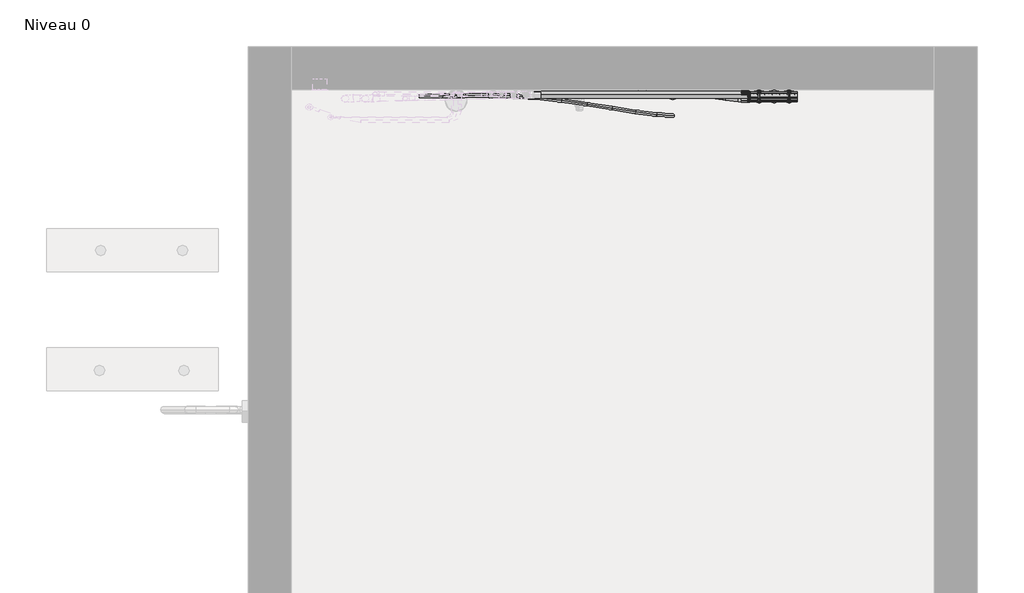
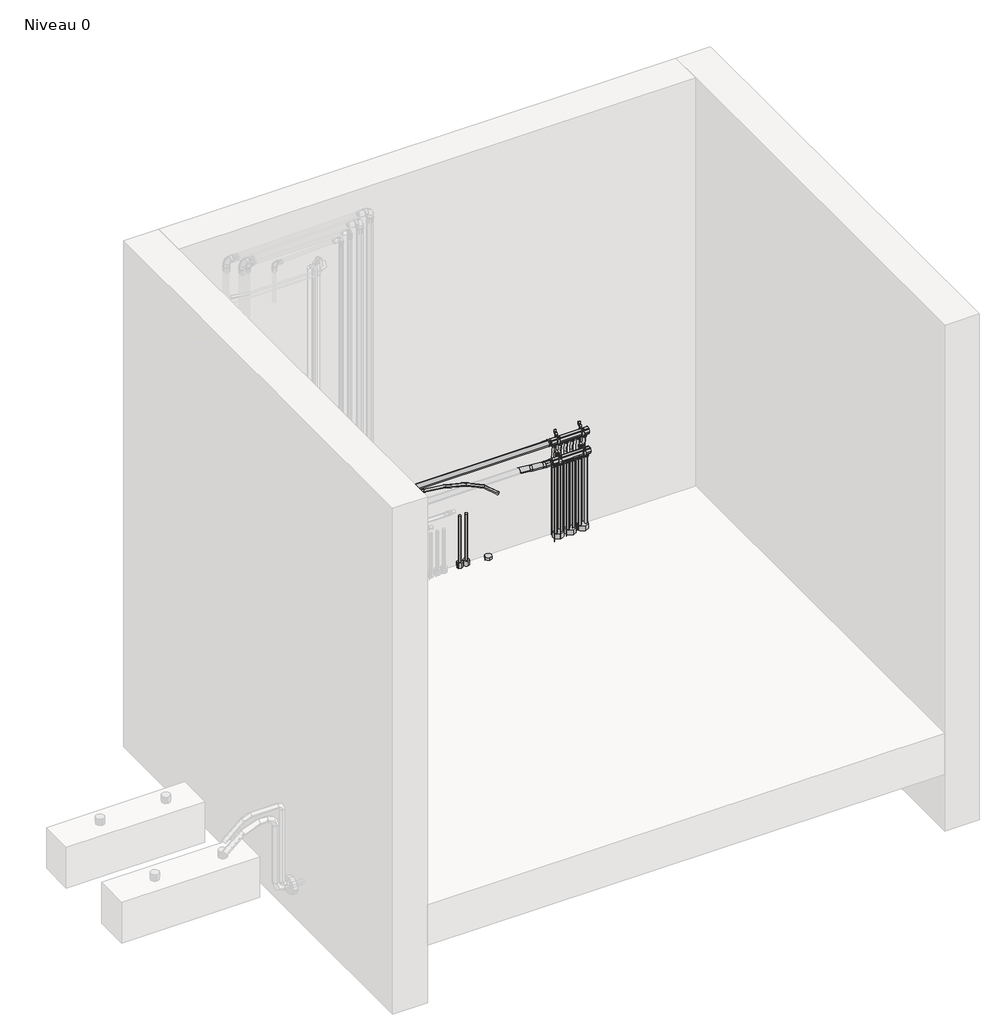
# One storey, part 4 of 4: 24 pipe segments, 4 pipe fittings, 1 proxy.
"""IFC4 building model written with IfcOpenShell, lengths in millimetres."""

from ifc_helpers import new_model, si_unit, point, frame, frame_2d, origin, place, context, project, spatial, circle_curve, ellipse_curve, trimmed, segment, composite_curve, outline, extrude, transform, mapped, element, save
from ifc_brep_helpers import plane_surface, cylinder_surface, advanced_brep
from components import proxy_4e90085c, proxy_aa8e1a6c, proxy_cb0937cd, proxy_d326d624, pipe_fitting_12f90ac3, pipe_fitting_e42a125b, standard_f86e1c61, standard_a543c9cd

model = new_model("IFC4")

# Units and contexts
model_context = context("Model", 3, world=origin())
ifc_project = project(units=[si_unit("LENGTHUNIT", "METRE", prefix="MILLI")], contexts=[model_context])

# Site, building, storey
site = spatial("IfcSite", under=ifc_project)
building = spatial("IfcBuilding", under=site)
storey = spatial("IfcBuildingStorey", under=building, Name="Niveau 0", Elevation=0.0)

# Proxy
placement = place(None, origin())
proxy_shape = proxy_4e90085c(model_context)
proxy_2_shape = proxy_aa8e1a6c(model_context)
proxy_3_shape = proxy_cb0937cd(model_context)
proxy_4_shape = proxy_d326d624(model_context)
element("IfcBuildingElementProxy", 1, Name="R580F : R580 3/4\" x 1/2\"", ObjectType="R580F : R580 3/4\" x 1/2\"", at=placement, inside=storey, context=model_context, shape_type="MappedRepresentation", body=[
    mapped(proxy_shape, transform((-18451.5411371, 2868.3187083, 417.5587972), x_axis=(1.0, 0.0, 0.0), y_axis=(0.0, 1.0, 0.0), z_axis=(0.0, 0.0, 1.0))),
    mapped(proxy_2_shape, transform((-18451.5411371, 2868.3187083, 417.5587972), x_axis=(1.0, 0.0, 0.0), y_axis=(0.0, 1.0, 0.0), z_axis=(0.0, 0.0, 1.0))),
    mapped(proxy_3_shape, transform((-18451.5411371, 2868.3187083, 417.5587972), x_axis=(1.0, 0.0, 0.0), y_axis=(0.0, 1.0, 0.0), z_axis=(0.0, 0.0, 1.0))),
    mapped(proxy_4_shape, transform((-18451.5411371, 2868.3187083, 417.5587972), x_axis=(1.0, 0.0, 0.0), y_axis=(0.0, 1.0, 0.0), z_axis=(0.0, 0.0, 1.0))),
])

# Pipe fittings
pipe_fitting_shape = pipe_fitting_12f90ac3(model_context)
element("IfcPipeFitting", 2, ObjectType="COMAP - SKINPRESS ppsu - Manchon_Réduit_9240W : Manchon_Réduit_9240W", at=placement, inside=storey, context=model_context, shape_type="MappedRepresentation", body=[
    mapped(pipe_fitting_shape, transform((-18482.5411371, 2827.7041611, 470.5625241), x_axis=(-1.0, 0.0, 0.0), y_axis=(0.0, -1.0, 0.0), z_axis=(0.0, 0.0, 1.0))),
])
pipe_fitting_2_shape = pipe_fitting_e42a125b(model_context)
element("IfcPipeFitting", 3, ObjectType="COMAP - SKINPRESS ppsu - Manchon_Réduit_9240W : Manchon_Réduit_9240W", at=placement, inside=storey, context=model_context, shape_type="MappedRepresentation", body=[
    mapped(pipe_fitting_2_shape, transform((-18482.5411371, 2845.768066, 580.9440266), x_axis=(1.0, 0.0, 0.0), y_axis=(0.0, 0.99995401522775, 0.009589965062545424), z_axis=(0.0, -0.009589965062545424, 0.99995401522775))),
])
standard_shape = standard_f86e1c61(model_context)
element("IfcPipeFitting", 4, ObjectType="COMAP - MULTISKIN - Coude Cintre : Standard", at=placement, inside=storey, context=model_context, shape_type="MappedRepresentation", body=[
    mapped(standard_shape, transform((-18627.1850009, 2844.5669991, 470.5625241), x_axis=(-0.970418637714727, 0.24142839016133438, 0.0), y_axis=(-0.24142839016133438, -0.970418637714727, 0.0), z_axis=(0.0, 0.0, 1.0))),
])
standard_2_shape = standard_a543c9cd(model_context)
element("IfcPipeFitting", 5, ObjectType="COMAP - MULTISKIN - Coude Cintre : Standard", at=placement, inside=storey, context=model_context, shape_type="MappedRepresentation", body=[
    mapped(standard_2_shape, transform((-18559.4050176, 2827.7041611, 470.5625241), x_axis=(0.970418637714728, -0.24142839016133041, 0.0), y_axis=(0.24142839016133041, 0.970418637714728, 0.0), z_axis=(0.0, 0.0, 1.0))),
])

# Pipe segments
element("IfcPipeSegment", 6, ObjectType="COMAP MULTISKIN - SKINPRESS PPSU", at=placement, inside=storey, context=model_context, shape_type="SweptSolid", body=[
    extrude(outline(composite_curve([segment(trimmed(circle_curve(frame_2d((-18996.5411371, 2848.1013547)), 7.0), [point((-18989.5411371, 2848.1013547))], [point((-18996.5411371, 2841.1013547))], False, "CARTESIAN"), True, "CONTINUOUS"), segment(trimmed(circle_curve(frame_2d((-18996.5411371, 2848.1013547)), 7.0), [point((-18996.5411371, 2841.1013547))], [point((-19003.5411371, 2848.1013547))], False, "CARTESIAN"), True, "CONTINUOUS"), segment(trimmed(circle_curve(frame_2d((-18996.5411371, 2848.1013547)), 7.0), [point((-19003.5411371, 2848.1013547))], [point((-18996.5411371, 2855.1013547))], False, "CARTESIAN"), True, "CONTINUOUS"), segment(trimmed(circle_curve(frame_2d((-18996.5411371, 2848.1013547)), 7.0), [point((-18996.5411371, 2855.1013547))], [point((-18989.5411371, 2848.1013547))], False, "CARTESIAN"), True, "CONTINUOUS")], self_intersect=False)), frame((0.0, 0.0, -338.1002), z_axis=(0.0, 0.0, 1.0), x_axis=(1.0, 0.0, 0.0)), (0.0, 0.0, 1.0), 651.6002),
])
element("IfcPipeSegment", 7, ObjectType="COMAP MULTISKIN - SKINPRESS PPSU", at=placement, inside=storey, context=model_context, shape_type="SweptSolid", body=[
    extrude(outline(composite_curve([segment(trimmed(circle_curve(frame_2d((-18958.5411371, 2848.1013547)), 7.0), [point((-18951.5411371, 2848.1013547))], [point((-18958.5411371, 2841.1013547))], False, "CARTESIAN"), True, "CONTINUOUS"), segment(trimmed(circle_curve(frame_2d((-18958.5411371, 2848.1013547)), 7.0), [point((-18958.5411371, 2841.1013547))], [point((-18965.5411371, 2848.1013547))], False, "CARTESIAN"), True, "CONTINUOUS"), segment(trimmed(circle_curve(frame_2d((-18958.5411371, 2848.1013547)), 7.0), [point((-18965.5411371, 2848.1013547))], [point((-18958.5411371, 2855.1013547))], False, "CARTESIAN"), True, "CONTINUOUS"), segment(trimmed(circle_curve(frame_2d((-18958.5411371, 2848.1013547)), 7.0), [point((-18958.5411371, 2855.1013547))], [point((-18951.5411371, 2848.1013547))], False, "CARTESIAN"), True, "CONTINUOUS")], self_intersect=False)), frame((0.0, 0.0, -336.5), z_axis=(0.0, 0.0, 1.0), x_axis=(1.0, 0.0, 0.0)), (0.0, 0.0, 1.0), 650.0),
])
element("IfcPipeSegment", 8, ObjectType="COMAP MULTISKIN - SKINPRESS PPSU", at=placement, inside=storey, context=model_context, shape_type="SweptSolid", body=[
    extrude(outline(composite_curve([segment(trimmed(circle_curve(frame_2d((2844.3084587, 580.9440266)), 16.0), [point((2828.3084587, 580.9440266))], [point((2844.3084587, 596.9440266))], False, "CARTESIAN"), True, "CONTINUOUS"), segment(trimmed(circle_curve(frame_2d((2844.3084587, 580.9440266)), 16.0), [point((2844.3084587, 596.9440266))], [point((2860.3084587, 580.9440266))], False, "CARTESIAN"), True, "CONTINUOUS"), segment(trimmed(circle_curve(frame_2d((2844.3084587, 580.9440266)), 16.0), [point((2860.3084587, 580.9440266))], [point((2844.3084587, 564.9440266))], False, "CARTESIAN"), True, "CONTINUOUS"), segment(trimmed(circle_curve(frame_2d((2844.3084587, 580.9440266)), 16.0), [point((2844.3084587, 564.9440266))], [point((2828.3084587, 580.9440266))], False, "CARTESIAN"), True, "CONTINUOUS")], self_intersect=False)), frame((-19481.7333527, 0.0, 0.0), z_axis=(1.0, 0.0, 0.0), x_axis=(0.0, 1.0, 0.0)), (0.0, 0.0, 1.0), 994.1922156),
])
element("IfcPipeSegment", 9, ObjectType="COMAP MULTISKIN - SKINPRESS PPSU", at=placement, inside=storey, context=model_context, shape_type="SweptSolid", body=[
    extrude(outline(composite_curve([segment(trimmed(circle_curve(frame_2d((2827.7041611, 470.5625241)), 16.0), [point((2843.7041611, 470.5625241))], [point((2827.7041611, 454.5625241))], False, "CARTESIAN"), True, "CONTINUOUS"), segment(trimmed(circle_curve(frame_2d((2827.7041611, 470.5625241)), 16.0), [point((2827.7041611, 454.5625241))], [point((2811.7041611, 470.5625241))], False, "CARTESIAN"), True, "CONTINUOUS"), segment(trimmed(circle_curve(frame_2d((2827.7041611, 470.5625241)), 16.0), [point((2811.7041611, 470.5625241))], [point((2827.7041611, 486.5625241))], False, "CARTESIAN"), True, "CONTINUOUS"), segment(trimmed(circle_curve(frame_2d((2827.7041611, 470.5625241)), 16.0), [point((2827.7041611, 486.5625241))], [point((2843.7041611, 470.5625241))], False, "CARTESIAN"), True, "CONTINUOUS")], self_intersect=False)), frame((-18529.9986708, 0.0, 0.0), z_axis=(1.0, 0.0, 0.0), x_axis=(0.0, 1.0, 0.0)), (0.0, 0.0, 1.0), 42.4575337),
])
element("IfcPipeSegment", 10, ObjectType="COMAP MULTISKIN - SKINPRESS PPSU", at=placement, inside=storey, context=model_context, shape_type="SweptSolid", body=[
    extrude(outline(composite_curve([segment(trimmed(circle_curve(frame_2d((0.0, 16.0)), 16.0), [point((16.0000001, 16.0))], [point((0.0, 0.0))], False, "CARTESIAN"), True, "CONTINUOUS"), segment(trimmed(circle_curve(frame_2d((0.0, 16.0)), 16.0), [point((0.0, 0.0))], [point((-16.0, 16.0))], False, "CARTESIAN"), True, "CONTINUOUS"), segment(trimmed(circle_curve(frame_2d((0.0, 16.0)), 16.0), [point((-16.0, 16.0))], [point((0.0, 32.0))], False, "CARTESIAN"), True, "CONTINUOUS"), segment(trimmed(circle_curve(frame_2d((0.0, 16.0)), 16.0), [point((0.0, 32.0))], [point((16.0000001, 16.0))], False, "CARTESIAN"), True, "CONTINUOUS")], self_intersect=False)), frame((-18587.9414845, 2834.803688, 486.5625241), z_axis=(-0.9704186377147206, 0.24142839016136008, 0.0), x_axis=(0.24142839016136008, 0.9704186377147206, 0.0)), (0.0, 0.0, 1.0), 10.8929155),
])
element("IfcPipeSegment", 11, ObjectType="Souple - Arrondie", at=placement, inside=storey, context=model_context, shape_type="AdvancedBrep", body=[
    advanced_brep(
    [(-20018.0112234, 2846.5261365, 615.0), (-20018.9185096, 2838.517435, 607.0603822), (-20017.8637689, 2830.526816, 615.0), (-20016.9564827, 2838.5355176, 622.9396178), (-19910.5493964, 2847.5165365, 601.720966), (-19911.4566824, 2839.5078021, 593.7813482), (-19910.401946, 2831.5172159, 601.7209334), (-19909.494656, 2839.5259503, 609.6605838), (-18833.0967663, 2755.2215601, 455.9838484), (-18828.7948052, 2746.6292376, 461.955877), (-18834.5452662, 2739.2933443, 455.5436334), (-18838.8472273, 2747.8856668, 449.5716049), (-19804.0163515, 2849.2193209, 588.6879759), (-19804.8247929, 2841.211986, 580.7362269), (-19803.8506532, 2833.2199313, 588.6856784), (-19803.0422118, 2841.2272663, 596.6374274), (-19696.5825364, 2849.7324947, 577.7390234), (-19697.3162815, 2841.7255166, 569.7796618), (-19696.730453, 2833.7316071, 577.7686874), (-19695.9967078, 2841.7385852, 585.7280491), (-19586.631017, 2847.145209, 570.7453519), (-19587.2860428, 2839.1363785, 562.7809832), (-19587.3492737, 2831.1577421, 570.8112935), (-19586.6942479, 2839.1665727, 578.7756622), (-19472.5589292, 2839.5451292, 569.579232), (-19473.1675071, 2831.5332041, 561.6143885), (-19474.0017649, 2823.6059376, 569.6525807), (-19473.393187, 2831.6178627, 577.6174243), (-19354.0565853, 2825.9881471, 574.2611136), (-19354.7842404, 2817.9898447, 566.2915654), (-19356.1210849, 2810.1200755, 574.309901), (-19355.3934298, 2818.1183779, 582.2794492), (-19234.6747285, 2808.6029957, 578.8914794), (-19235.8154655, 2800.664849, 570.9059094), (-19237.0867844, 2792.7855375, 578.9267865), (-19235.9460475, 2800.7236842, 586.9123565), (-19118.6602625, 2790.1182153, 576.4093368), (-19120.5842601, 2782.3048668, 568.4405247), (-19121.1457839, 2774.3124624, 576.4462157), (-19119.2217863, 2782.1258109, 584.4150277), (-19010.2701918, 2773.2567189, 559.7809281), (-19013.4519927, 2765.6390382, 552.005079), (-19012.5349029, 2757.4166161, 559.783932), (-19009.353102, 2765.0342968, 567.5597811), (-18913.7570984, 2760.7318018, 522.01558), (-18918.6686646, 2753.3386001, 514.916584), (-18915.4953836, 2744.8233824, 521.8125946), (-18910.5838174, 2752.2165841, 528.9115906)],
    [
        (0, 1, circle_curve(frame((-20017.9374962, 2838.5264763, 615.0), z_axis=(-0.992410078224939, -0.009146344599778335, 0.12263189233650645), x_axis=(-0.0092159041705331, 0.9999575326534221, 0.0)), 8.0)),
        (1, 2, circle_curve(frame((-20017.9374962, 2838.5264763, 615.0), z_axis=(-0.992410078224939, -0.009146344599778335, 0.12263189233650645), x_axis=(-0.0092159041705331, 0.9999575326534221, 0.0)), 8.0)),
        (2, 3, circle_curve(frame((-20017.9374962, 2838.5264763, 615.0), z_axis=(-0.992410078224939, -0.009146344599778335, 0.12263189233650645), x_axis=(-0.0092159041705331, 0.9999575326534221, 0.0)), 8.0)),
        (3, 0, circle_curve(frame((-20017.9374962, 2838.5264763, 615.0), z_axis=(-0.992410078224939, -0.009146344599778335, 0.12263189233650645), x_axis=(-0.0092159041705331, 0.9999575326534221, 0.0)), 8.0)),
        (0, 4),
        (4, 5, circle_curve(frame((-19910.4756692, 2839.5168762, 601.720966), z_axis=(-0.992410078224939, -0.009146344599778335, 0.12263189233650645), x_axis=(-0.0092159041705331, 0.9999575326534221, 0.0)), 8.0)),
        (5, 1),
        (5, 6, circle_curve(frame((-19910.4756692, 2839.5168762, 601.720966), z_axis=(-0.992410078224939, -0.009146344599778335, 0.12263189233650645), x_axis=(-0.0092159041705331, 0.9999575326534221, 0.0)), 8.0)),
        (6, 2),
        (6, 7, circle_curve(frame((-19910.4756692, 2839.5168762, 601.720966), z_axis=(-0.992410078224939, -0.009146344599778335, 0.12263189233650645), x_axis=(-0.0092159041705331, 0.9999575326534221, 0.0)), 8.0)),
        (7, 3),
        (7, 4, circle_curve(frame((-19910.4756692, 2839.5168762, 601.720966), z_axis=(-0.992410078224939, -0.009146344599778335, 0.12263189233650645), x_axis=(-0.0092159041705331, 0.9999575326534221, 0.0)), 8.0)),
        (8, 9, circle_curve(frame((-18833.8210163, 2747.2574522, 455.7637409), z_axis=(0.7727049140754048, -0.05278667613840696, -0.632566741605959), x_axis=(0.09053124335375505, 0.9955134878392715, 0.027513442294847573)), 8.0)),
        (9, 10, circle_curve(frame((-18833.8210163, 2747.2574522, 455.7637409), z_axis=(0.7727049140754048, -0.05278667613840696, -0.632566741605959), x_axis=(0.09053124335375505, 0.9955134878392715, 0.027513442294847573)), 8.0)),
        (10, 11, circle_curve(frame((-18833.8210163, 2747.2574522, 455.7637409), z_axis=(0.7727049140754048, -0.05278667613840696, -0.632566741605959), x_axis=(0.09053124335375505, 0.9955134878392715, 0.027513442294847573)), 8.0)),
        (11, 8, circle_curve(frame((-18833.8210163, 2747.2574522, 455.7637409), z_axis=(0.7727049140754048, -0.05278667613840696, -0.632566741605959), x_axis=(0.09053124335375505, 0.9955134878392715, 0.027513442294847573)), 8.0)),
        (4, 12),
        (12, 13, ellipse_curve(frame((-19803.9335023, 2841.2196261, 588.6868272), z_axis=(-0.9937211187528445, -0.01030750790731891, 0.11140957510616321), x_axis=(0.10253041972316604, -0.48248160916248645, 0.869884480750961)), 8.0005303, 8.0)),
        (13, 5),
        (13, 14, ellipse_curve(frame((-19803.9335023, 2841.2196261, 588.6868272), z_axis=(-0.9937211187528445, -0.01030750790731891, 0.11140957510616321), x_axis=(0.10253041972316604, -0.48248160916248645, 0.869884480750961)), 8.0005303, 8.0)),
        (14, 6),
        (14, 15, ellipse_curve(frame((-19803.9335023, 2841.2196261, 588.6868272), z_axis=(-0.9937211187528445, -0.01030750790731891, 0.11140957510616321), x_axis=(0.10253041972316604, -0.48248160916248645, 0.869884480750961)), 8.0005303, 8.0)),
        (15, 7),
        (15, 12, ellipse_curve(frame((-19803.9335023, 2841.2196261, 588.6868272), z_axis=(-0.9937211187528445, -0.01030750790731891, 0.11140957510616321), x_axis=(0.10253041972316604, -0.48248160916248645, 0.869884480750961)), 8.0005303, 8.0)),
        (12, 16),
        (16, 17, ellipse_curve(frame((-19696.6564947, 2841.7320509, 577.7538554), z_axis=(-0.9965514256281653, 0.009365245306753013, 0.08244724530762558), x_axis=(0.060643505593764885, -0.5959819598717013, 0.8007046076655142)), 8.0022445, 8.0)),
        (17, 13),
        (17, 18, ellipse_curve(frame((-19696.6564947, 2841.7320509, 577.7538554), z_axis=(-0.9965514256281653, 0.009365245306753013, 0.08244724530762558), x_axis=(0.060643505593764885, -0.5959819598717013, 0.8007046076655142)), 8.0022445, 8.0)),
        (18, 14),
        (18, 19, ellipse_curve(frame((-19696.6564947, 2841.7320509, 577.7538554), z_axis=(-0.9965514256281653, 0.009365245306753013, 0.08244724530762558), x_axis=(0.060643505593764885, -0.5959819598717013, 0.8007046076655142)), 8.0022445, 8.0)),
        (19, 15),
        (19, 16, ellipse_curve(frame((-19696.6564947, 2841.7320509, 577.7538554), z_axis=(-0.9965514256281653, 0.009365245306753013, 0.08244724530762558), x_axis=(0.060643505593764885, -0.5959819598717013, 0.8007046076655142)), 8.0022445, 8.0)),
        (16, 20),
        (20, 21, ellipse_curve(frame((-19586.9901453, 2839.1514756, 570.7783227), z_axis=(-0.9983069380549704, 0.045002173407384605, 0.03685189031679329), x_axis=(0.00040715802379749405, -0.628144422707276, 0.7780966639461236)), 8.0046897, 8.0)),
        (21, 17),
        (21, 22, ellipse_curve(frame((-19586.9901453, 2839.1514756, 570.7783227), z_axis=(-0.9983069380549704, 0.045002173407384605, 0.03685189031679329), x_axis=(0.00040715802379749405, -0.628144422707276, 0.7780966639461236)), 8.0046897, 8.0)),
        (22, 18),
        (22, 23, ellipse_curve(frame((-19586.9901453, 2839.1514756, 570.7783227), z_axis=(-0.9983069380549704, 0.045002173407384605, 0.03685189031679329), x_axis=(0.00040715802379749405, -0.628144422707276, 0.7780966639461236)), 8.0046897, 8.0)),
        (23, 19),
        (23, 20, ellipse_curve(frame((-19586.9901453, 2839.1514756, 570.7783227), z_axis=(-0.9983069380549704, 0.045002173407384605, 0.03685189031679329), x_axis=(0.00040715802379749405, -0.628144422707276, 0.7780966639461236)), 8.0046897, 8.0)),
        (20, 24),
        (24, 25, ellipse_curve(frame((-19473.280347, 2831.5755334, 569.6159064), z_axis=(-0.9958289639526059, 0.09007687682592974, -0.01452001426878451), x_axis=(-0.07276541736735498, -0.6880628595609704, 0.7219935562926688)), 8.0046898, 8.0)),
        (25, 21),
        (25, 26, ellipse_curve(frame((-19473.280347, 2831.5755334, 569.6159064), z_axis=(-0.9958289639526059, 0.09007687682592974, -0.01452001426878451), x_axis=(-0.07276541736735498, -0.6880628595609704, 0.7219935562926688)), 8.0046898, 8.0)),
        (26, 22),
        (26, 27, ellipse_curve(frame((-19473.280347, 2831.5755334, 569.6159064), z_axis=(-0.9958289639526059, 0.09007687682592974, -0.01452001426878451), x_axis=(-0.07276541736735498, -0.6880628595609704, 0.7219935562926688)), 8.0046898, 8.0)),
        (27, 23),
        (27, 24, ellipse_curve(frame((-19473.280347, 2831.5755334, 569.6159064), z_axis=(-0.9958289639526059, 0.09007687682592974, -0.01452001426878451), x_axis=(-0.07276541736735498, -0.6880628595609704, 0.7219935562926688)), 8.0046898, 8.0)),
        (24, 28),
        (28, 29, ellipse_curve(frame((-19355.0888351, 2818.0541113, 574.2855073), z_axis=(-0.9909112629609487, 0.12880225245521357, -0.03879237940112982), x_axis=(-0.12775685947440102, -0.9914008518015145, -0.02832906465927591)), 8.0009421, 8.0)),
        (29, 25),
        (29, 30, ellipse_curve(frame((-19355.0888351, 2818.0541113, 574.2855073), z_axis=(-0.9909112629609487, 0.12880225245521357, -0.03879237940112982), x_axis=(-0.12775685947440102, -0.9914008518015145, -0.02832906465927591)), 8.0009421, 8.0)),
        (30, 26),
        (30, 31, ellipse_curve(frame((-19355.0888351, 2818.0541113, 574.2855073), z_axis=(-0.9909112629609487, 0.12880225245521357, -0.03879237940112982), x_axis=(-0.12775685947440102, -0.9914008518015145, -0.02832906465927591)), 8.0009421, 8.0)),
        (31, 27),
        (31, 28, ellipse_curve(frame((-19355.0888351, 2818.0541113, 574.2855073), z_axis=(-0.9909112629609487, 0.12880225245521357, -0.03879237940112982), x_axis=(-0.12775685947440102, -0.9914008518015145, -0.02832906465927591)), 8.0009421, 8.0)),
        (28, 32),
        (32, 33, ellipse_curve(frame((-19235.8807565, 2800.6942666, 578.9091329), z_axis=(-0.9885379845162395, 0.15072615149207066, -0.008618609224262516), x_axis=(-0.024785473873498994, -0.21833860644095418, -0.9755582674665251)), 8.0037196, 8.0)),
        (33, 29),
        (33, 34, ellipse_curve(frame((-19235.8807565, 2800.6942666, 578.9091329), z_axis=(-0.9885379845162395, 0.15072615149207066, -0.008618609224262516), x_axis=(-0.024785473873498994, -0.21833860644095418, -0.9755582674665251)), 8.0037196, 8.0)),
        (34, 30),
        (34, 35, ellipse_curve(frame((-19235.8807565, 2800.6942666, 578.9091329), z_axis=(-0.9885379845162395, 0.15072615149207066, -0.008618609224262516), x_axis=(-0.024785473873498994, -0.21833860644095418, -0.9755582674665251)), 8.0037196, 8.0)),
        (35, 31),
        (35, 32, ellipse_curve(frame((-19235.8807565, 2800.6942666, 578.9091329), z_axis=(-0.9885379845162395, 0.15072615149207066, -0.008618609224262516), x_axis=(-0.024785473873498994, -0.21833860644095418, -0.9755582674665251)), 8.0037196, 8.0)),
        (32, 36),
        (36, 37, ellipse_curve(frame((-19119.9030232, 2782.2153388, 576.4277762), z_axis=(-0.9841969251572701, 0.15496903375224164, 0.08567970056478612), x_axis=(-0.08020428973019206, 0.04125775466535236, -0.9959242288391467)), 8.0167659, 8.0)),
        (37, 33),
        (37, 38, ellipse_curve(frame((-19119.9030232, 2782.2153388, 576.4277762), z_axis=(-0.9841969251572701, 0.15496903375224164, 0.08567970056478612), x_axis=(-0.08020428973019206, 0.04125775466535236, -0.9959242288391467)), 8.0167659, 8.0)),
        (38, 34),
        (38, 39, ellipse_curve(frame((-19119.9030232, 2782.2153388, 576.4277762), z_axis=(-0.9841969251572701, 0.15496903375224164, 0.08567970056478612), x_axis=(-0.08020428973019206, 0.04125775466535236, -0.9959242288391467)), 8.0167659, 8.0)),
        (39, 35),
        (39, 36, ellipse_curve(frame((-19119.9030232, 2782.2153388, 576.4277762), z_axis=(-0.9841969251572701, 0.15496903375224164, 0.08567970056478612), x_axis=(-0.08020428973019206, 0.04125775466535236, -0.9959242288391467)), 8.0167659, 8.0)),
        (36, 40),
        (40, 41, ellipse_curve(frame((-19011.4025474, 2765.3366675, 559.78243), z_axis=(-0.9565733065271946, 0.13681320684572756, 0.2573900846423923), x_axis=(-0.2376876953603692, 0.14504977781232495, -0.9604504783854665)), 8.0491173, 8.0)),
        (41, 37),
        (41, 42, ellipse_curve(frame((-19011.4025474, 2765.3366675, 559.78243), z_axis=(-0.9565733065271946, 0.13681320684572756, 0.2573900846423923), x_axis=(-0.2376876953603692, 0.14504977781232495, -0.9604504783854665)), 8.0491173, 8.0)),
        (42, 38),
        (42, 43, ellipse_curve(frame((-19011.4025474, 2765.3366675, 559.78243), z_axis=(-0.9565733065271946, 0.13681320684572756, 0.2573900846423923), x_axis=(-0.2376876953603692, 0.14504977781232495, -0.9604504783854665)), 8.0491173, 8.0)),
        (43, 39),
        (43, 40, ellipse_curve(frame((-19011.4025474, 2765.3366675, 559.78243), z_axis=(-0.9565733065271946, 0.13681320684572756, 0.2573900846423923), x_axis=(-0.2376876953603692, 0.14504977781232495, -0.9604504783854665)), 8.0491173, 8.0)),
        (40, 44),
        (44, 45, ellipse_curve(frame((-18914.626241, 2752.7775921, 521.9140873), z_axis=(-0.8595211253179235, 0.0874931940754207, 0.5035557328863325), x_axis=(-0.47793564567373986, 0.21153275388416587, -0.852544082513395)), 8.1028472, 8.0)),
        (45, 41),
        (45, 46, ellipse_curve(frame((-18914.626241, 2752.7775921, 521.9140873), z_axis=(-0.8595211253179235, 0.0874931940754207, 0.5035557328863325), x_axis=(-0.47793564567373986, 0.21153275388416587, -0.852544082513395)), 8.1028472, 8.0)),
        (46, 42),
        (46, 47, ellipse_curve(frame((-18914.626241, 2752.7775921, 521.9140873), z_axis=(-0.8595211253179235, 0.0874931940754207, 0.5035557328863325), x_axis=(-0.47793564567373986, 0.21153275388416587, -0.852544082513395)), 8.1028472, 8.0)),
        (47, 43),
        (47, 44, ellipse_curve(frame((-18914.626241, 2752.7775921, 521.9140873), z_axis=(-0.8595211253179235, 0.0874931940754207, 0.5035557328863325), x_axis=(-0.47793564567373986, 0.21153275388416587, -0.852544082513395)), 8.1028472, 8.0)),
        (44, 8),
        (11, 45),
        (10, 46),
        (9, 47),
    ],
    [
        plane_surface(frame((-20017.9374962, 2846.5043178, 615.5950172), z_axis=(-0.99241007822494, -0.009146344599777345, 0.1226318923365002), x_axis=(0.12297250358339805, -0.07381263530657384, 0.9896612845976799))),
        cylinder_surface(frame((-20017.9374962, 2838.5264763, 615.0), z_axis=(-0.9924100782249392, -0.009146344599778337, 0.12263189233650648), x_axis=(-0.0092159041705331, 0.9999575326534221, 0.0)), 8.0),
        plane_surface(frame((-18833.8210163, 2755.2297423, 455.0984661), z_axis=(0.7727049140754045, -0.05278667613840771, -0.6325667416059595), x_axis=(0.6347654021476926, 0.06425763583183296, 0.7700284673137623))),
        cylinder_surface(frame((-19910.4756692, 2839.5168762, 601.720966), z_axis=(-0.9924748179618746, -0.015861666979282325, 0.12141722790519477), x_axis=(-0.015879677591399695, 0.999873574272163, 0.0008193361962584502)), 8.0),
        cylinder_surface(frame((-19803.9335023, 2841.2196261, 588.6868272), z_axis=(-0.9948356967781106, -0.004751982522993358, 0.10138715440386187), x_axis=(-0.004819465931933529, 0.9999882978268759, -0.00042066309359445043)), 8.0),
        cylinder_surface(frame((-19696.6564947, 2841.7320509, 577.7538554), z_axis=(-0.9977081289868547, 0.023477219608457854, 0.06346108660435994), x_axis=(0.023349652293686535, 0.9997235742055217, -0.002751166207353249)), 8.0),
        cylinder_surface(frame((-19586.9901453, 2839.1514756, 570.7783227), z_axis=(-0.9977359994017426, 0.06647439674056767, 0.010199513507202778), x_axis=(0.06643304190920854, 0.9977814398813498, -0.004341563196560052)), 8.0),
        cylinder_surface(frame((-19473.280347, 2831.5755334, 569.6159064), z_axis=(-0.9927550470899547, 0.11357380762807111, -0.039222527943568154), x_axis=(0.11380288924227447, 0.993496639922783, -0.0036508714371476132)), 8.0),
        cylinder_surface(frame((-19355.0888351, 2818.0541113, 574.2855073), z_axis=(-0.9888341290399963, 0.14400036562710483, -0.03835309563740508), x_axis=(0.14419942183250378, 0.9895455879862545, -0.002460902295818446)), 8.0),
        cylinder_surface(frame((-19235.8807565, 2800.6942666, 578.9091329), z_axis=(-0.9873230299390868, 0.15731184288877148, 0.021123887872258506), x_axis=(0.15729755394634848, 0.9875484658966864, -0.002346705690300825)), 8.0),
        cylinder_surface(frame((-19119.9030232, 2782.2153388, 576.4277762), z_axis=(-0.976954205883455, 0.15197803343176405, 0.14987713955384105), x_axis=(0.1534131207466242, 0.9881600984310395, -0.002008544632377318)), 8.0),
        cylinder_surface(frame((-19011.4025474, 2765.3366675, 559.78243), z_axis=(-0.9245180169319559, 0.11997865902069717, 0.36176174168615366), x_axis=(0.13031278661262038, 0.9914640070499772, 0.004207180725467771)), 8.0),
        cylinder_surface(frame((-18914.626241, 2752.7775921, 521.9140873), z_axis=(-0.772704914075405, 0.05278667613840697, 0.6325667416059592), x_axis=(0.09053124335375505, 0.9955134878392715, 0.027513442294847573)), 8.0),
    ],
    [
        (0, [[1, 2, 3, 4]]),
        (1, [[-1, 5, 6, 7]]),
        (1, [[-2, -7, 8, 9]]),
        (1, [[-3, -9, 10, 11]]),
        (1, [[-4, -11, 12, -5]]),
        (2, [[13, 14, 15, 16]]),
        (3, [[-6, 17, 18, 19]]),
        (3, [[-8, -19, 20, 21]]),
        (3, [[-10, -21, 22, 23]]),
        (3, [[-12, -23, 24, -17]]),
        (4, [[-18, 25, 26, 27]]),
        (4, [[-20, -27, 28, 29]]),
        (4, [[-22, -29, 30, 31]]),
        (4, [[-24, -31, 32, -25]]),
        (5, [[-26, 33, 34, 35]]),
        (5, [[-28, -35, 36, 37]]),
        (5, [[-30, -37, 38, 39]]),
        (5, [[-32, -39, 40, -33]]),
        (6, [[-34, 41, 42, 43]]),
        (6, [[-36, -43, 44, 45]]),
        (6, [[-38, -45, 46, 47]]),
        (6, [[-40, -47, 48, -41]]),
        (7, [[-42, 49, 50, 51]]),
        (7, [[-44, -51, 52, 53]]),
        (7, [[-46, -53, 54, 55]]),
        (7, [[-48, -55, 56, -49]]),
        (8, [[-50, 57, 58, 59]]),
        (8, [[-52, -59, 60, 61]]),
        (8, [[-54, -61, 62, 63]]),
        (8, [[-56, -63, 64, -57]]),
        (9, [[-58, 65, 66, 67]]),
        (9, [[-60, -67, 68, 69]]),
        (9, [[-62, -69, 70, 71]]),
        (9, [[-64, -71, 72, -65]]),
        (10, [[-66, 73, 74, 75]]),
        (10, [[-68, -75, 76, 77]]),
        (10, [[-70, -77, 78, 79]]),
        (10, [[-72, -79, 80, -73]]),
        (11, [[-74, 81, 82, 83]]),
        (11, [[-76, -83, 84, 85]]),
        (11, [[-78, -85, 86, 87]]),
        (11, [[-80, -87, 88, -81]]),
        (12, [[-82, 89, -16, 90]]),
        (12, [[-84, -90, -15, 91]]),
        (12, [[-86, -91, -14, 92]]),
        (12, [[-88, -92, -13, -89]]),
    ],
),
])
element("IfcPipeSegment", 12, ObjectType="PER Bleu", at=placement, inside=storey, context=model_context, shape_type="SweptSolid", body=[
    extrude(outline(composite_curve([segment(trimmed(circle_curve(frame_2d((-18451.5411371, 2827.7079283)), 8.0), [point((-18443.5411371, 2827.7079283))], [point((-18451.5411371, 2819.7079283))], False, "CARTESIAN"), True, "CONTINUOUS"), segment(trimmed(circle_curve(frame_2d((-18451.5411371, 2827.7079283)), 8.0), [point((-18451.5411371, 2819.7079283))], [point((-18459.5411371, 2827.7079283))], False, "CARTESIAN"), True, "CONTINUOUS"), segment(trimmed(circle_curve(frame_2d((-18451.5411371, 2827.7079283)), 8.0), [point((-18459.5411371, 2827.7079283))], [point((-18451.5411371, 2835.7079283))], False, "CARTESIAN"), True, "CONTINUOUS"), segment(trimmed(circle_curve(frame_2d((-18451.5411371, 2827.7079283)), 8.0), [point((-18451.5411371, 2835.7079283))], [point((-18443.5411371, 2827.7079283))], False, "CARTESIAN"), True, "CONTINUOUS")], self_intersect=False)), frame((0.0, 0.0, -155.5842922), z_axis=(0.0, 0.0, 1.0), x_axis=(1.0, 0.0, 0.0)), (0.0, 0.0, 1.0), 596.1440551),
])
element("IfcPipeSegment", 13, ObjectType="PER Bleu", at=placement, inside=storey, context=model_context, shape_type="SweptSolid", body=[
    extrude(outline(composite_curve([segment(trimmed(circle_curve(frame_2d((-18416.4983225, 2827.7079283)), 8.0), [point((-18408.4983225, 2827.7079283))], [point((-18416.4983225, 2819.7079283))], False, "CARTESIAN"), True, "CONTINUOUS"), segment(trimmed(circle_curve(frame_2d((-18416.4983225, 2827.7079283)), 8.0), [point((-18416.4983225, 2819.7079283))], [point((-18424.4983225, 2827.7079283))], False, "CARTESIAN"), True, "CONTINUOUS"), segment(trimmed(circle_curve(frame_2d((-18416.4983225, 2827.7079283)), 8.0), [point((-18424.4983225, 2827.7079283))], [point((-18416.4983225, 2835.7079283))], False, "CARTESIAN"), True, "CONTINUOUS"), segment(trimmed(circle_curve(frame_2d((-18416.4983225, 2827.7079283)), 8.0), [point((-18416.4983225, 2835.7079283))], [point((-18408.4983225, 2827.7079283))], False, "CARTESIAN"), True, "CONTINUOUS")], self_intersect=False)), frame((0.0, 0.0, -154.2484467), z_axis=(0.0, 0.0, 1.0), x_axis=(1.0, 0.0, 0.0)), (0.0, 0.0, 1.0), 594.8082095),
])
element("IfcPipeSegment", 14, ObjectType="PER Bleu", at=placement, inside=storey, context=model_context, shape_type="SweptSolid", body=[
    extrude(outline(composite_curve([segment(trimmed(circle_curve(frame_2d((-18381.4564908, 2827.7079283)), 8.0), [point((-18373.4564908, 2827.7079283))], [point((-18381.4564908, 2819.7079283))], False, "CARTESIAN"), True, "CONTINUOUS"), segment(trimmed(circle_curve(frame_2d((-18381.4564908, 2827.7079283)), 8.0), [point((-18381.4564908, 2819.7079283))], [point((-18389.4564908, 2827.7079283))], False, "CARTESIAN"), True, "CONTINUOUS"), segment(trimmed(circle_curve(frame_2d((-18381.4564908, 2827.7079283)), 8.0), [point((-18389.4564908, 2827.7079283))], [point((-18381.4564908, 2835.7079283))], False, "CARTESIAN"), True, "CONTINUOUS"), segment(trimmed(circle_curve(frame_2d((-18381.4564908, 2827.7079283)), 8.0), [point((-18381.4564908, 2835.7079283))], [point((-18373.4564908, 2827.7079283))], False, "CARTESIAN"), True, "CONTINUOUS")], self_intersect=False)), frame((0.0, 0.0, -154.2484467), z_axis=(0.0, 0.0, 1.0), x_axis=(1.0, 0.0, 0.0)), (0.0, 0.0, 1.0), 594.8082095),
])
element("IfcPipeSegment", 15, ObjectType="PER Bleu", at=placement, inside=storey, context=model_context, shape_type="SweptSolid", body=[
    extrude(outline(composite_curve([segment(trimmed(circle_curve(frame_2d((-18346.4005725, 2827.7079283)), 8.0), [point((-18338.4005725, 2827.7079283))], [point((-18346.4005725, 2819.7079283))], False, "CARTESIAN"), True, "CONTINUOUS"), segment(trimmed(circle_curve(frame_2d((-18346.4005725, 2827.7079283)), 8.0), [point((-18346.4005725, 2819.7079283))], [point((-18354.4005725, 2827.7079283))], False, "CARTESIAN"), True, "CONTINUOUS"), segment(trimmed(circle_curve(frame_2d((-18346.4005725, 2827.7079283)), 8.0), [point((-18354.4005725, 2827.7079283))], [point((-18346.4005725, 2835.7079283))], False, "CARTESIAN"), True, "CONTINUOUS"), segment(trimmed(circle_curve(frame_2d((-18346.4005725, 2827.7079283)), 8.0), [point((-18346.4005725, 2835.7079283))], [point((-18338.4005725, 2827.7079283))], False, "CARTESIAN"), True, "CONTINUOUS")], self_intersect=False)), frame((0.0, 0.0, -155.5842922), z_axis=(0.0, 0.0, 1.0), x_axis=(1.0, 0.0, 0.0)), (0.0, 0.0, 1.0), 596.1440551),
])
element("IfcPipeSegment", 16, ObjectType="PER Bleu", at=placement, inside=storey, context=model_context, shape_type="SweptSolid", body=[
    extrude(outline(composite_curve([segment(trimmed(circle_curve(frame_2d((-18311.3534623, 2827.7079283)), 8.0), [point((-18303.3534623, 2827.7079283))], [point((-18311.3534623, 2819.7079283))], False, "CARTESIAN"), True, "CONTINUOUS"), segment(trimmed(circle_curve(frame_2d((-18311.3534623, 2827.7079283)), 8.0), [point((-18311.3534623, 2819.7079283))], [point((-18319.3534623, 2827.7079283))], False, "CARTESIAN"), True, "CONTINUOUS"), segment(trimmed(circle_curve(frame_2d((-18311.3534623, 2827.7079283)), 8.0), [point((-18319.3534623, 2827.7079283))], [point((-18311.3534623, 2835.7079283))], False, "CARTESIAN"), True, "CONTINUOUS"), segment(trimmed(circle_curve(frame_2d((-18311.3534623, 2827.7079283)), 8.0), [point((-18311.3534623, 2835.7079283))], [point((-18303.3534623, 2827.7079283))], False, "CARTESIAN"), True, "CONTINUOUS")], self_intersect=False)), frame((0.0, 0.0, -155.5842922), z_axis=(0.0, 0.0, 1.0), x_axis=(1.0, 0.0, 0.0)), (0.0, 0.0, 1.0), 596.1440551),
])
element("IfcPipeSegment", 17, ObjectType="PER Bleu", at=placement, inside=storey, context=model_context, shape_type="SweptSolid", body=[
    extrude(outline(composite_curve([segment(trimmed(circle_curve(frame_2d((-18276.2993018, 2827.7079283)), 8.0), [point((-18268.2993018, 2827.7079283))], [point((-18276.2993018, 2819.7079283))], False, "CARTESIAN"), True, "CONTINUOUS"), segment(trimmed(circle_curve(frame_2d((-18276.2993018, 2827.7079283)), 8.0), [point((-18276.2993018, 2819.7079283))], [point((-18284.2993018, 2827.7079283))], False, "CARTESIAN"), True, "CONTINUOUS"), segment(trimmed(circle_curve(frame_2d((-18276.2993018, 2827.7079283)), 8.0), [point((-18284.2993018, 2827.7079283))], [point((-18276.2993018, 2835.7079283))], False, "CARTESIAN"), True, "CONTINUOUS"), segment(trimmed(circle_curve(frame_2d((-18276.2993018, 2827.7079283)), 8.0), [point((-18276.2993018, 2835.7079283))], [point((-18268.2993018, 2827.7079283))], False, "CARTESIAN"), True, "CONTINUOUS")], self_intersect=False)), frame((0.0, 0.0, -155.5842922), z_axis=(0.0, 0.0, 1.0), x_axis=(1.0, 0.0, 0.0)), (0.0, 0.0, 1.0), 596.1440551),
])
element("IfcPipeSegment", 18, ObjectType="PER Rouge", at=placement, inside=storey, context=model_context, shape_type="SweptSolid", body=[
    extrude(outline(composite_curve([segment(trimmed(circle_curve(frame_2d((-18276.2993018, 2853.9082053)), 8.0), [point((-18268.2993018, 2853.9082053))], [point((-18276.2993018, 2845.9082053))], False, "CARTESIAN"), True, "CONTINUOUS"), segment(trimmed(circle_curve(frame_2d((-18276.2993018, 2853.9082053)), 8.0), [point((-18276.2993018, 2845.9082053))], [point((-18284.2993018, 2853.9082053))], False, "CARTESIAN"), True, "CONTINUOUS"), segment(trimmed(circle_curve(frame_2d((-18276.2993018, 2853.9082053)), 8.0), [point((-18284.2993018, 2853.9082053))], [point((-18276.2993018, 2861.9082053))], False, "CARTESIAN"), True, "CONTINUOUS"), segment(trimmed(circle_curve(frame_2d((-18276.2993018, 2853.9082053)), 8.0), [point((-18276.2993018, 2861.9082053))], [point((-18268.2993018, 2853.9082053))], False, "CARTESIAN"), True, "CONTINUOUS")], self_intersect=False)), frame((0.0, 0.0, -155.5842922), z_axis=(0.0, 0.0, 1.0), x_axis=(1.0, 0.0, 0.0)), (0.0, 0.0, 1.0), 576.8423257),
])
element("IfcPipeSegment", 19, ObjectType="PER Rouge", at=placement, inside=storey, context=model_context, shape_type="SweptSolid", body=[
    extrude(outline(composite_curve([segment(trimmed(circle_curve(frame_2d((-18311.3534623, 2853.9082053)), 8.0), [point((-18303.3534623, 2853.9082053))], [point((-18311.3534623, 2845.9082053))], False, "CARTESIAN"), True, "CONTINUOUS"), segment(trimmed(circle_curve(frame_2d((-18311.3534623, 2853.9082053)), 8.0), [point((-18311.3534623, 2845.9082053))], [point((-18319.3534623, 2853.9082053))], False, "CARTESIAN"), True, "CONTINUOUS"), segment(trimmed(circle_curve(frame_2d((-18311.3534623, 2853.9082053)), 8.0), [point((-18319.3534623, 2853.9082053))], [point((-18311.3534623, 2861.9082053))], False, "CARTESIAN"), True, "CONTINUOUS"), segment(trimmed(circle_curve(frame_2d((-18311.3534623, 2853.9082053)), 8.0), [point((-18311.3534623, 2861.9082053))], [point((-18303.3534623, 2853.9082053))], False, "CARTESIAN"), True, "CONTINUOUS")], self_intersect=False)), frame((0.0, 0.0, -155.5842922), z_axis=(0.0, 0.0, 1.0), x_axis=(1.0, 0.0, 0.0)), (0.0, 0.0, 1.0), 576.8423257),
])
element("IfcPipeSegment", 20, ObjectType="PER Rouge", at=placement, inside=storey, context=model_context, shape_type="SweptSolid", body=[
    extrude(outline(composite_curve([segment(trimmed(circle_curve(frame_2d((-18346.4005725, 2853.9082053)), 8.0), [point((-18338.4005725, 2853.9082053))], [point((-18346.4005725, 2845.9082053))], False, "CARTESIAN"), True, "CONTINUOUS"), segment(trimmed(circle_curve(frame_2d((-18346.4005725, 2853.9082053)), 8.0), [point((-18346.4005725, 2845.9082053))], [point((-18354.4005725, 2853.9082053))], False, "CARTESIAN"), True, "CONTINUOUS"), segment(trimmed(circle_curve(frame_2d((-18346.4005725, 2853.9082053)), 8.0), [point((-18354.4005725, 2853.9082053))], [point((-18346.4005725, 2861.9082053))], False, "CARTESIAN"), True, "CONTINUOUS"), segment(trimmed(circle_curve(frame_2d((-18346.4005725, 2853.9082053)), 8.0), [point((-18346.4005725, 2861.9082053))], [point((-18338.4005725, 2853.9082053))], False, "CARTESIAN"), True, "CONTINUOUS")], self_intersect=False)), frame((0.0, 0.0, -174.1564161), z_axis=(0.0, 0.0, 1.0), x_axis=(1.0, 0.0, 0.0)), (0.0, 0.0, 1.0), 595.4144496),
])
element("IfcPipeSegment", 21, ObjectType="PER Rouge", at=placement, inside=storey, context=model_context, shape_type="SweptSolid", body=[
    extrude(outline(composite_curve([segment(trimmed(circle_curve(frame_2d((-18381.4564908, 2853.9082053)), 8.0), [point((-18373.4564908, 2853.9082053))], [point((-18381.4564908, 2845.9082053))], False, "CARTESIAN"), True, "CONTINUOUS"), segment(trimmed(circle_curve(frame_2d((-18381.4564908, 2853.9082053)), 8.0), [point((-18381.4564908, 2845.9082053))], [point((-18389.4564908, 2853.9082053))], False, "CARTESIAN"), True, "CONTINUOUS"), segment(trimmed(circle_curve(frame_2d((-18381.4564908, 2853.9082053)), 8.0), [point((-18389.4564908, 2853.9082053))], [point((-18381.4564908, 2861.9082053))], False, "CARTESIAN"), True, "CONTINUOUS"), segment(trimmed(circle_curve(frame_2d((-18381.4564908, 2853.9082053)), 8.0), [point((-18381.4564908, 2861.9082053))], [point((-18373.4564908, 2853.9082053))], False, "CARTESIAN"), True, "CONTINUOUS")], self_intersect=False)), frame((0.0, 0.0, -174.1564161), z_axis=(0.0, 0.0, 1.0), x_axis=(1.0, 0.0, 0.0)), (0.0, 0.0, 1.0), 595.4144496),
])
element("IfcPipeSegment", 22, ObjectType="PER Rouge", at=placement, inside=storey, context=model_context, shape_type="SweptSolid", body=[
    extrude(outline(composite_curve([segment(trimmed(circle_curve(frame_2d((-18416.4983225, 2853.9082053)), 8.0), [point((-18408.4983225, 2853.9082053))], [point((-18416.4983225, 2845.9082053))], False, "CARTESIAN"), True, "CONTINUOUS"), segment(trimmed(circle_curve(frame_2d((-18416.4983225, 2853.9082053)), 8.0), [point((-18416.4983225, 2845.9082053))], [point((-18424.4983225, 2853.9082053))], False, "CARTESIAN"), True, "CONTINUOUS"), segment(trimmed(circle_curve(frame_2d((-18416.4983225, 2853.9082053)), 8.0), [point((-18424.4983225, 2853.9082053))], [point((-18416.4983225, 2861.9082053))], False, "CARTESIAN"), True, "CONTINUOUS"), segment(trimmed(circle_curve(frame_2d((-18416.4983225, 2853.9082053)), 8.0), [point((-18416.4983225, 2861.9082053))], [point((-18408.4983225, 2853.9082053))], False, "CARTESIAN"), True, "CONTINUOUS")], self_intersect=False)), frame((0.0, 0.0, -174.1564161), z_axis=(0.0, 0.0, 1.0), x_axis=(1.0, 0.0, 0.0)), (0.0, 0.0, 1.0), 595.4144496),
])
element("IfcPipeSegment", 23, ObjectType="PER Rouge", at=placement, inside=storey, context=model_context, shape_type="SweptSolid", body=[
    extrude(outline(composite_curve([segment(trimmed(circle_curve(frame_2d((-18451.5411371, 2853.9082053)), 8.0), [point((-18443.5411371, 2853.9082053))], [point((-18451.5411371, 2845.9082053))], False, "CARTESIAN"), True, "CONTINUOUS"), segment(trimmed(circle_curve(frame_2d((-18451.5411371, 2853.9082053)), 8.0), [point((-18451.5411371, 2845.9082053))], [point((-18459.5411371, 2853.9082053))], False, "CARTESIAN"), True, "CONTINUOUS"), segment(trimmed(circle_curve(frame_2d((-18451.5411371, 2853.9082053)), 8.0), [point((-18459.5411371, 2853.9082053))], [point((-18451.5411371, 2861.9082053))], False, "CARTESIAN"), True, "CONTINUOUS"), segment(trimmed(circle_curve(frame_2d((-18451.5411371, 2853.9082053)), 8.0), [point((-18451.5411371, 2861.9082053))], [point((-18443.5411371, 2853.9082053))], False, "CARTESIAN"), True, "CONTINUOUS")], self_intersect=False)), frame((0.0, 0.0, -174.1564161), z_axis=(0.0, 0.0, 1.0), x_axis=(1.0, 0.0, 0.0)), (0.0, 0.0, 1.0), 595.4144496),
])
element("IfcPipeSegment", 24, ObjectType="PVC - NF", at=placement, inside=storey, context=model_context, shape_type="SweptSolid", body=[
    extrude(outline(composite_curve([segment(trimmed(circle_curve(frame_2d((-18835.492912, 2841.3545992)), 20.0), [point((-18815.492912, 2841.3545992))], [point((-18835.492912, 2821.3545992))], False, "CARTESIAN"), True, "CONTINUOUS"), segment(trimmed(circle_curve(frame_2d((-18835.492912, 2841.3545992)), 20.0), [point((-18835.492912, 2821.3545992))], [point((-18855.492912, 2841.3545992))], False, "CARTESIAN"), True, "CONTINUOUS"), segment(trimmed(circle_curve(frame_2d((-18835.492912, 2841.3545992)), 20.0), [point((-18855.492912, 2841.3545992))], [point((-18835.492912, 2861.3545992))], False, "CARTESIAN"), True, "CONTINUOUS"), segment(trimmed(circle_curve(frame_2d((-18835.492912, 2841.3545992)), 20.0), [point((-18835.492912, 2861.3545992))], [point((-18815.492912, 2841.3545992))], False, "CARTESIAN"), True, "CONTINUOUS")], self_intersect=False)), frame((0.0, 0.0, -333.3663839), z_axis=(0.0, 0.0, 1.0), x_axis=(1.0, 0.0, 0.0)), (0.0, 0.0, 1.0), 350.0),
])
element("IfcPipeSegment", 25, ObjectType="PVC - NF", at=placement, inside=storey, context=model_context, shape_type="SweptSolid", body=[
    extrude(outline(composite_curve([segment(trimmed(circle_curve(frame_2d((-18996.8908211, 2847.6698405)), 16.0), [point((-18980.8908211, 2847.6698405))], [point((-18996.8908211, 2831.6698405))], False, "CARTESIAN"), True, "CONTINUOUS"), segment(trimmed(circle_curve(frame_2d((-18996.8908211, 2847.6698405)), 16.0), [point((-18996.8908211, 2831.6698405))], [point((-19012.8908211, 2847.6698405))], False, "CARTESIAN"), True, "CONTINUOUS"), segment(trimmed(circle_curve(frame_2d((-18996.8908211, 2847.6698405)), 16.0), [point((-19012.8908211, 2847.6698405))], [point((-18996.8908211, 2863.6698405))], False, "CARTESIAN"), True, "CONTINUOUS"), segment(trimmed(circle_curve(frame_2d((-18996.8908211, 2847.6698405)), 16.0), [point((-18996.8908211, 2863.6698405))], [point((-18980.8908211, 2847.6698405))], False, "CARTESIAN"), True, "CONTINUOUS")], self_intersect=False)), frame((0.0, 0.0, -336.5), z_axis=(0.0, 0.0, 1.0), x_axis=(1.0, 0.0, 0.0)), (0.0, 0.0, 1.0), 368.1530125),
])
element("IfcPipeSegment", 26, ObjectType="PVC - NF", at=placement, inside=storey, context=model_context, shape_type="SweptSolid", body=[
    extrude(outline(composite_curve([segment(trimmed(circle_curve(frame_2d((-18958.8571928, 2848.1511738)), 16.0), [point((-18942.8571928, 2848.1511738))], [point((-18958.8571928, 2832.1511738))], False, "CARTESIAN"), True, "CONTINUOUS"), segment(trimmed(circle_curve(frame_2d((-18958.8571928, 2848.1511738)), 16.0), [point((-18958.8571928, 2832.1511738))], [point((-18974.8571928, 2848.1511738))], False, "CARTESIAN"), True, "CONTINUOUS"), segment(trimmed(circle_curve(frame_2d((-18958.8571928, 2848.1511738)), 16.0), [point((-18974.8571928, 2848.1511738))], [point((-18958.8571928, 2864.1511738))], False, "CARTESIAN"), True, "CONTINUOUS"), segment(trimmed(circle_curve(frame_2d((-18958.8571928, 2848.1511738)), 16.0), [point((-18958.8571928, 2864.1511738))], [point((-18942.8571928, 2848.1511738))], False, "CARTESIAN"), True, "CONTINUOUS")], self_intersect=False)), frame((0.0, 0.0, -336.5), z_axis=(0.0, 0.0, 1.0), x_axis=(1.0, 0.0, 0.0)), (0.0, 0.0, 1.0), 368.1530125),
])
element("IfcPipeSegment", 27, ObjectType="PVC - NF", at=placement, inside=storey, context=model_context, shape_type="SweptSolid", body=[
    extrude(outline(composite_curve([segment(trimmed(circle_curve(frame_2d((-18433.5411371, 2836.7570252)), 31.5), [point((-18402.0411371, 2836.7570252))], [point((-18433.5411371, 2805.2570252))], False, "CARTESIAN"), True, "CONTINUOUS"), segment(trimmed(circle_curve(frame_2d((-18433.5411371, 2836.7570252)), 31.5), [point((-18433.5411371, 2805.2570252))], [point((-18465.0411371, 2836.7570252))], False, "CARTESIAN"), True, "CONTINUOUS"), segment(trimmed(circle_curve(frame_2d((-18433.5411371, 2836.7570252)), 31.5), [point((-18465.0411371, 2836.7570252))], [point((-18433.5411371, 2868.2570252))], False, "CARTESIAN"), True, "CONTINUOUS"), segment(trimmed(circle_curve(frame_2d((-18433.5411371, 2836.7570252)), 31.5), [point((-18433.5411371, 2868.2570252))], [point((-18402.0411371, 2836.7570252))], False, "CARTESIAN"), True, "CONTINUOUS")], self_intersect=False)), frame((0.0, 0.0, -336.5), z_axis=(0.0, 0.0, 1.0), x_axis=(1.0, 0.0, 0.0)), (0.0, 0.0, 1.0), 368.1530125),
])
element("IfcPipeSegment", 28, ObjectType="PVC - NF", at=placement, inside=storey, context=model_context, shape_type="SweptSolid", body=[
    extrude(outline(composite_curve([segment(trimmed(circle_curve(frame_2d((-18363.5411371, 2836.7570252)), 31.5), [point((-18332.0411371, 2836.7570252))], [point((-18363.5411371, 2805.2570252))], False, "CARTESIAN"), True, "CONTINUOUS"), segment(trimmed(circle_curve(frame_2d((-18363.5411371, 2836.7570252)), 31.5), [point((-18363.5411371, 2805.2570252))], [point((-18395.0411371, 2836.7570252))], False, "CARTESIAN"), True, "CONTINUOUS"), segment(trimmed(circle_curve(frame_2d((-18363.5411371, 2836.7570252)), 31.5), [point((-18395.0411371, 2836.7570252))], [point((-18363.5411371, 2868.2570252))], False, "CARTESIAN"), True, "CONTINUOUS"), segment(trimmed(circle_curve(frame_2d((-18363.5411371, 2836.7570252)), 31.5), [point((-18363.5411371, 2868.2570252))], [point((-18332.0411371, 2836.7570252))], False, "CARTESIAN"), True, "CONTINUOUS")], self_intersect=False)), frame((0.0, 0.0, -336.5), z_axis=(0.0, 0.0, 1.0), x_axis=(1.0, 0.0, 0.0)), (0.0, 0.0, 1.0), 368.1530125),
])
element("IfcPipeSegment", 29, ObjectType="PVC - NF", at=placement, inside=storey, context=model_context, shape_type="SweptSolid", body=[
    extrude(outline(composite_curve([segment(trimmed(circle_curve(frame_2d((-18293.5411371, 2836.7570252)), 31.5), [point((-18262.0411371, 2836.7570252))], [point((-18293.5411371, 2805.2570252))], False, "CARTESIAN"), True, "CONTINUOUS"), segment(trimmed(circle_curve(frame_2d((-18293.5411371, 2836.7570252)), 31.5), [point((-18293.5411371, 2805.2570252))], [point((-18325.0411371, 2836.7570252))], False, "CARTESIAN"), True, "CONTINUOUS"), segment(trimmed(circle_curve(frame_2d((-18293.5411371, 2836.7570252)), 31.5), [point((-18325.0411371, 2836.7570252))], [point((-18293.5411371, 2868.2570252))], False, "CARTESIAN"), True, "CONTINUOUS"), segment(trimmed(circle_curve(frame_2d((-18293.5411371, 2836.7570252)), 31.5), [point((-18293.5411371, 2868.2570252))], [point((-18262.0411371, 2836.7570252))], False, "CARTESIAN"), True, "CONTINUOUS")], self_intersect=False)), frame((0.0, 0.0, -336.5), z_axis=(0.0, 0.0, 1.0), x_axis=(1.0, 0.0, 0.0)), (0.0, 0.0, 1.0), 368.1530125),
])

save(model, "model.ifc")
